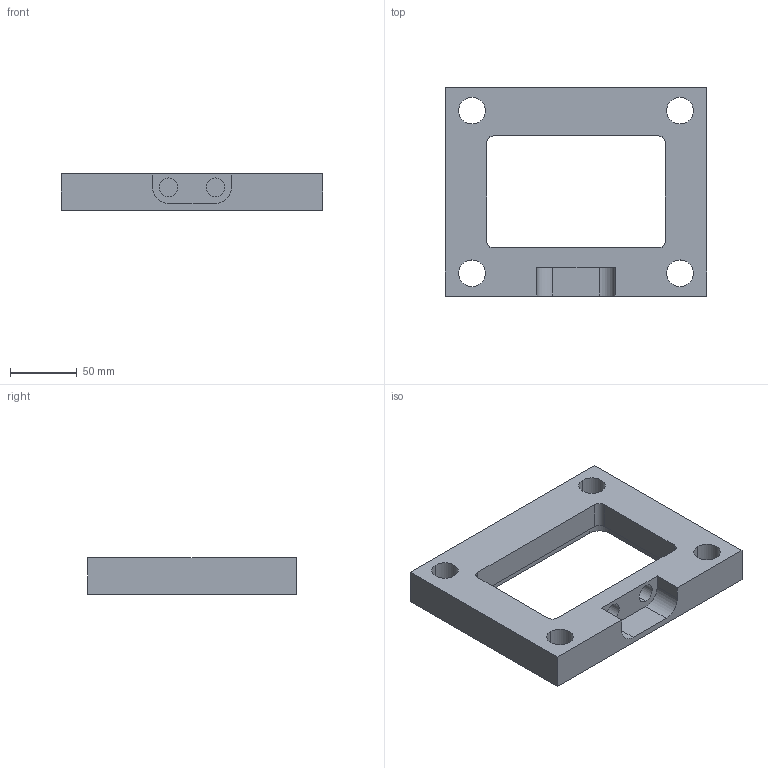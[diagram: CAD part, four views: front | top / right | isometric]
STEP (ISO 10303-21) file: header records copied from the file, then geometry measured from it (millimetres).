
FILE_DESCRIPTION (( 'STEP AP203' ), '1' );
FILE_NAME ('PEPF.STEP', '2008-01-18T12:15:54', ( 'profs' ), ( '' ), 'SwSTEP 2.0', 'SolidWorks 2007', '' );
FILE_SCHEMA (( 'CONFIG_CONTROL_DESIGN' ));
Length unit declared in the file: millimetre
Products named in the file (1): PEPF
Bounding box: 196 x 156 x 27 mm (x, y, z)
Volume: 437788.5 mm3; surface area: 77105.9 mm2
Topology: 1 solids, 1 shells, 69 faces, 178 edges, 112 vertices
Faces by surface type: cylinder 38, plane 23, cone 8
Entity records: 2173 total; most frequent: DIRECTION 386, CARTESIAN_POINT 352, ORIENTED_EDGE 340, EDGE_CURVE 170, AXIS2_PLACEMENT_3D 146, VERTEX_POINT 112, LINE 94, VECTOR 94
